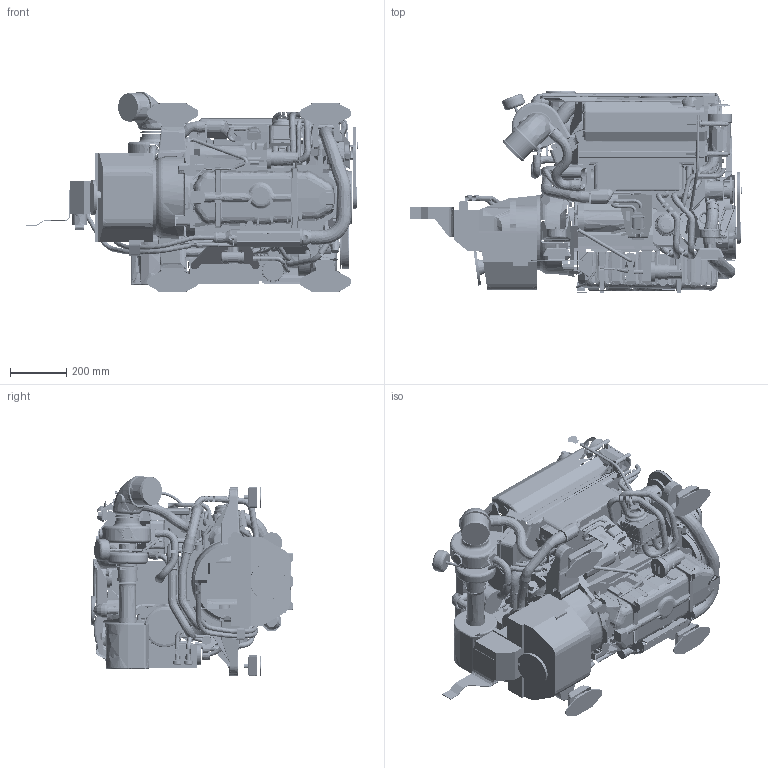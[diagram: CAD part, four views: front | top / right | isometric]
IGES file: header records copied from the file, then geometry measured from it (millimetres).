
Start section:  PTC IGES file: tdi_165-5_zf45a.igs
Global section: file name: tdi_165-5_zf45a.igs; native system: Pro/ENGINEER by Parametric Technology Corporation; preprocessor: 2005070; author: ebb9233; organization: Unknown; date: 060228.125550; units: millimetre
Bounding box: 1180.72 x 719.32 x 714.8 mm (x, y, z)
Surface area: 8179180.8 mm2 (no closed solid volume)
Topology: 0 solids, 0 shells, 3310 faces, 20351 edges, 20341 vertices
Faces by surface type: bspline 3310
